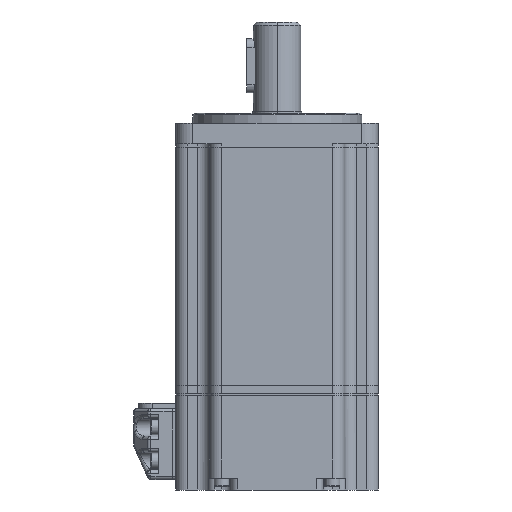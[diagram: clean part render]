
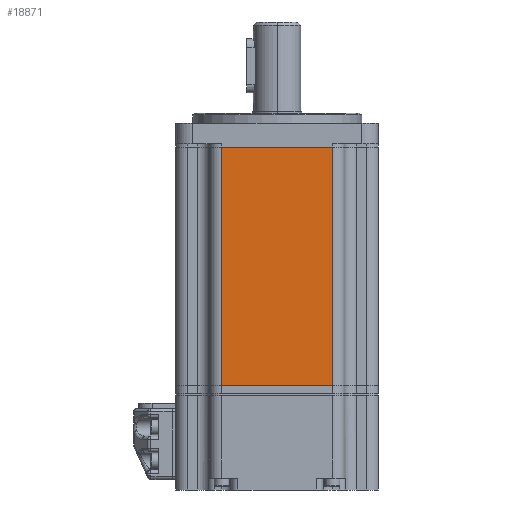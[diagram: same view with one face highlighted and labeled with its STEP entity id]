
A CAD part, front view. The second image highlights one B-rep face of the part: STEP entity #18871.
In plain terms, the highlighted planar face has unit normal (0, -1, 0).
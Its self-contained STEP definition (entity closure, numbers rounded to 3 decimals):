
#461 = CARTESIAN_POINT ( 'NONE',  ( 16.5, -30., -71.5 ) ) ;
#1995 = DIRECTION ( 'NONE',  ( -1., 0., 0. ) ) ;
#2232 = EDGE_CURVE ( 'NONE', #41683, #16518, #9745, .T. ) ;
#2896 = CARTESIAN_POINT ( 'NONE',  ( 20., -30., -1. ) ) ;
#2957 = EDGE_CURVE ( 'NONE', #41683, #33143, #13977, .T. ) ;
#4209 = PLANE ( 'NONE',  #31710 ) ;
#4310 = VECTOR ( 'NONE', #19908, 1000. ) ;
#4349 = DIRECTION ( 'NONE',  ( 0., 0., 1. ) ) ;
#5142 = ORIENTED_EDGE ( 'NONE', *, *, #27343, .T. ) ;
#6423 = FACE_OUTER_BOUND ( 'NONE', #34993, .T. ) ;
#9745 = LINE ( 'NONE', #42673, #24577 ) ;
#13977 = LINE ( 'NONE', #24283, #36849 ) ;
#14998 = CARTESIAN_POINT ( 'NONE',  ( -16.5, -30., -71.5 ) ) ;
#15051 = DIRECTION ( 'NONE',  ( 0., 0., -1. ) ) ;
#16518 = VERTEX_POINT ( 'NONE', #14998 ) ;
#17281 = DIRECTION ( 'NONE',  ( 0., 0., 1. ) ) ;
#18438 = CARTESIAN_POINT ( 'NONE',  ( -16.5, -30., -71.5 ) ) ;
#18782 = VERTEX_POINT ( 'NONE', #30941 ) ;
#18871 = ADVANCED_FACE ( 'NONE', ( #6423 ), #4209, .F. ) ;
#19631 = CARTESIAN_POINT ( 'NONE',  ( 16.5, -30., -1. ) ) ;
#19908 = DIRECTION ( 'NONE',  ( -1., 0., 0. ) ) ;
#21635 = EDGE_CURVE ( 'NONE', #33143, #18782, #40431, .T. ) ;
#21869 = LINE ( 'NONE', #18438, #29890 ) ;
#24283 = CARTESIAN_POINT ( 'NONE',  ( 16.5, -30., -71.5 ) ) ;
#24577 = VECTOR ( 'NONE', #1995, 1000. ) ;
#24673 = DIRECTION ( 'NONE',  ( 0., 1., 0. ) ) ;
#27343 = EDGE_CURVE ( 'NONE', #18782, #16518, #21869, .T. ) ;
#29890 = VECTOR ( 'NONE', #15051, 1000. ) ;
#30941 = CARTESIAN_POINT ( 'NONE',  ( -16.5, -30., -1. ) ) ;
#31710 = AXIS2_PLACEMENT_3D ( 'NONE', #34804, #24673, #4349 ) ;
#31763 = ORIENTED_EDGE ( 'NONE', *, *, #2957, .T. ) ;
#33143 = VERTEX_POINT ( 'NONE', #19631 ) ;
#34527 = ORIENTED_EDGE ( 'NONE', *, *, #2232, .F. ) ;
#34804 = CARTESIAN_POINT ( 'NONE',  ( 20., -30., -71.5 ) ) ;
#34993 = EDGE_LOOP ( 'NONE', ( #34527, #31763, #38711, #5142 ) ) ;
#36849 = VECTOR ( 'NONE', #17281, 1000. ) ;
#38711 = ORIENTED_EDGE ( 'NONE', *, *, #21635, .T. ) ;
#40431 = LINE ( 'NONE', #2896, #4310 ) ;
#41683 = VERTEX_POINT ( 'NONE', #461 ) ;
#42673 = CARTESIAN_POINT ( 'NONE',  ( 20., -30., -71.5 ) ) ;
